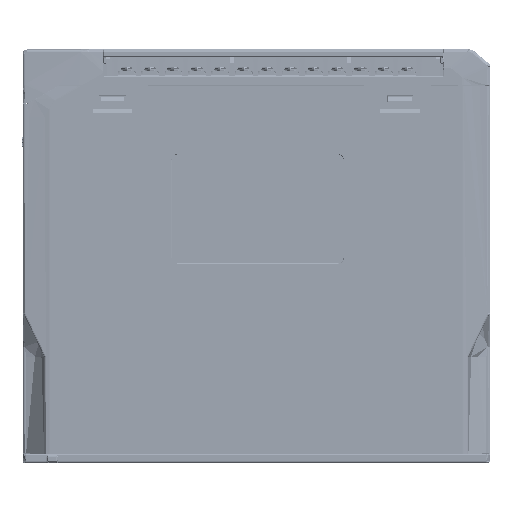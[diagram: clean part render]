
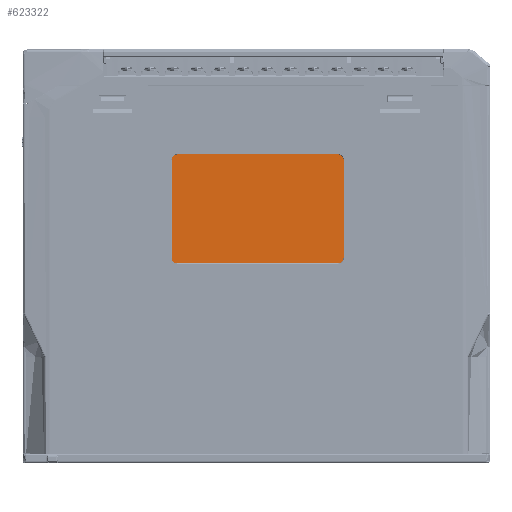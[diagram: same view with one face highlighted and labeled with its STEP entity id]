
A CAD part, left-side view. The second image highlights one B-rep face of the part: STEP entity #623322.
In plain terms, the highlighted planar face has unit normal (-1, 0, 0).
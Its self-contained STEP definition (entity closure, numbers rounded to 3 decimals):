
#16182 = VERTEX_POINT ( 'NONE', #360640 ) ;
#31336 = EDGE_CURVE ( 'NONE', #969193, #16182, #530177, .T. ) ;
#50534 = EDGE_CURVE ( 'NONE', #393151, #667396, #536641, .T. ) ;
#77951 = DIRECTION ( 'NONE',  ( -1., 0., 0. ) ) ;
#108172 = ORIENTED_EDGE ( 'NONE', *, *, #527870, .T. ) ;
#123308 = CARTESIAN_POINT ( 'NONE',  ( -87.422, 27.093, -61.35 ) ) ;
#123776 = EDGE_CURVE ( 'NONE', #774971, #582184, #373064, .T. ) ;
#135831 = CARTESIAN_POINT ( 'NONE',  ( -87.422, 27.093, -61.35 ) ) ;
#141137 = CARTESIAN_POINT ( 'NONE',  ( -87.422, 24.093, -118.95 ) ) ;
#142694 = CIRCLE ( 'NONE', #268619, 3. ) ;
#155553 = VECTOR ( 'NONE', #842132, 1000. ) ;
#155975 = CARTESIAN_POINT ( 'NONE',  ( -87.422, 24.093, -61.35 ) ) ;
#158941 = EDGE_LOOP ( 'NONE', ( #108172, #270347, #424933, #656751, #937082, #223393, #245875, #724968 ) ) ;
#170518 = DIRECTION ( 'NONE',  ( 0., 0., 1. ) ) ;
#175960 = EDGE_CURVE ( 'NONE', #667396, #380214, #142694, .T. ) ;
#193399 = CARTESIAN_POINT ( 'NONE',  ( -87.422, -65.507, -58.35 ) ) ;
#208328 = CARTESIAN_POINT ( 'NONE',  ( -87.422, 24.093, -115.95 ) ) ;
#211344 = CARTESIAN_POINT ( 'NONE',  ( -87.422, 24.093, -115.95 ) ) ;
#222410 = CARTESIAN_POINT ( 'NONE',  ( -87.422, -65.507, -115.95 ) ) ;
#223393 = ORIENTED_EDGE ( 'NONE', *, *, #50534, .T. ) ;
#230732 = PLANE ( 'NONE',  #443824 ) ;
#245875 = ORIENTED_EDGE ( 'NONE', *, *, #175960, .T. ) ;
#250331 = VECTOR ( 'NONE', #436865, 1000. ) ;
#267075 = AXIS2_PLACEMENT_3D ( 'NONE', #155975, #628649, #170518 ) ;
#268619 = AXIS2_PLACEMENT_3D ( 'NONE', #720225, #853490, #932330 ) ;
#270347 = ORIENTED_EDGE ( 'NONE', *, *, #123776, .T. ) ;
#271229 = DIRECTION ( 'NONE',  ( 0., 0., -1. ) ) ;
#310727 = CARTESIAN_POINT ( 'NONE',  ( -87.422, 27.093, -115.95 ) ) ;
#310815 = VECTOR ( 'NONE', #790244, 1000. ) ;
#360640 = CARTESIAN_POINT ( 'NONE',  ( -87.422, -65.507, -118.95 ) ) ;
#373064 = LINE ( 'NONE', #123308, #433340 ) ;
#373749 = FACE_OUTER_BOUND ( 'NONE', #158941, .T. ) ;
#380214 = VERTEX_POINT ( 'NONE', #193399 ) ;
#383968 = EDGE_CURVE ( 'NONE', #380214, #524745, #637461, .T. ) ;
#393151 = VERTEX_POINT ( 'NONE', #837056 ) ;
#393219 = CIRCLE ( 'NONE', #944033, 3. ) ;
#393693 = CARTESIAN_POINT ( 'NONE',  ( -87.422, -68.507, -61.35 ) ) ;
#424933 = ORIENTED_EDGE ( 'NONE', *, *, #645562, .T. ) ;
#433340 = VECTOR ( 'NONE', #271229, 1000. ) ;
#436865 = DIRECTION ( 'NONE',  ( 0., -1., 0. ) ) ;
#443824 = AXIS2_PLACEMENT_3D ( 'NONE', #211344, #77951, #679080 ) ;
#489623 = CARTESIAN_POINT ( 'NONE',  ( -87.422, 24.093, -58.35 ) ) ;
#508852 = DIRECTION ( 'NONE',  ( -1., 0., 0. ) ) ;
#524745 = VERTEX_POINT ( 'NONE', #866023 ) ;
#527870 = EDGE_CURVE ( 'NONE', #524745, #774971, #613108, .T. ) ;
#530177 = LINE ( 'NONE', #141137, #250331 ) ;
#536641 = LINE ( 'NONE', #393693, #155553 ) ;
#567636 = CARTESIAN_POINT ( 'NONE',  ( -87.422, 24.093, -118.95 ) ) ;
#582184 = VERTEX_POINT ( 'NONE', #310727 ) ;
#604070 = CIRCLE ( 'NONE', #871424, 3. ) ;
#606533 = DIRECTION ( 'NONE',  ( -1., 0., 0. ) ) ;
#613108 = CIRCLE ( 'NONE', #267075, 3. ) ;
#623322 = ADVANCED_FACE ( 'NONE', ( #373749 ), #230732, .T. ) ;
#628649 = DIRECTION ( 'NONE',  ( -1., 0., 0. ) ) ;
#637461 = LINE ( 'NONE', #489623, #310815 ) ;
#645562 = EDGE_CURVE ( 'NONE', #582184, #969193, #393219, .T. ) ;
#656751 = ORIENTED_EDGE ( 'NONE', *, *, #31336, .T. ) ;
#667396 = VERTEX_POINT ( 'NONE', #795938 ) ;
#679080 = DIRECTION ( 'NONE',  ( 0., -1., 0. ) ) ;
#720225 = CARTESIAN_POINT ( 'NONE',  ( -87.422, -65.507, -61.35 ) ) ;
#724968 = ORIENTED_EDGE ( 'NONE', *, *, #383968, .T. ) ;
#774971 = VERTEX_POINT ( 'NONE', #135831 ) ;
#790244 = DIRECTION ( 'NONE',  ( 0., 1., 0. ) ) ;
#795938 = CARTESIAN_POINT ( 'NONE',  ( -87.422, -68.507, -61.35 ) ) ;
#828371 = EDGE_CURVE ( 'NONE', #16182, #393151, #604070, .T. ) ;
#837056 = CARTESIAN_POINT ( 'NONE',  ( -87.422, -68.507, -115.95 ) ) ;
#842132 = DIRECTION ( 'NONE',  ( 0., 0., 1. ) ) ;
#853490 = DIRECTION ( 'NONE',  ( -1., 0., 0. ) ) ;
#866023 = CARTESIAN_POINT ( 'NONE',  ( -87.422, 24.093, -58.35 ) ) ;
#871424 = AXIS2_PLACEMENT_3D ( 'NONE', #222410, #606533, #912014 ) ;
#912014 = DIRECTION ( 'NONE',  ( 0., -1., 0. ) ) ;
#932330 = DIRECTION ( 'NONE',  ( 0., -1., 0. ) ) ;
#937082 = ORIENTED_EDGE ( 'NONE', *, *, #828371, .T. ) ;
#944033 = AXIS2_PLACEMENT_3D ( 'NONE', #208328, #508852, #947667 ) ;
#947667 = DIRECTION ( 'NONE',  ( 0., -1., 0. ) ) ;
#969193 = VERTEX_POINT ( 'NONE', #567636 ) ;
